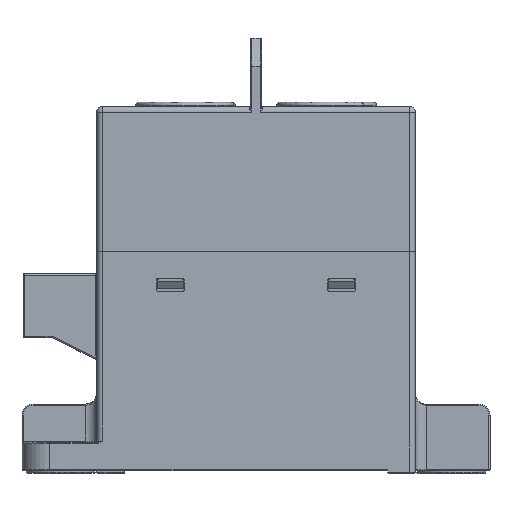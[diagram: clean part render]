
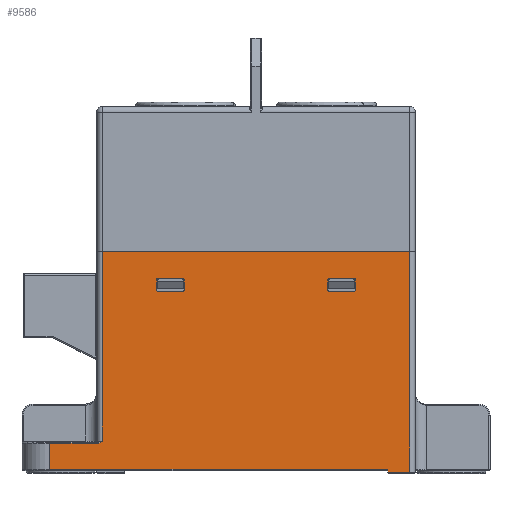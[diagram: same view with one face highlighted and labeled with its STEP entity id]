
A CAD part, top view. The second image highlights one B-rep face of the part: STEP entity #9586.
In plain terms, the highlighted planar face has unit normal (0, 0, 1).
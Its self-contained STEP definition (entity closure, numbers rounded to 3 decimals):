
#262=DIRECTION('',(0.,-1.,0.));
#263=VECTOR('',#262,39.8);
#264=CARTESIAN_POINT('',(-22.95,40.,-0.2));
#265=LINE('',#264,#263);
#270=DIRECTION('',(0.,-1.,0.));
#271=VECTOR('',#270,0.5);
#272=CARTESIAN_POINT('',(-26.95,0.7,-0.2));
#273=LINE('',#272,#271);
#274=CARTESIAN_POINT('',(-78.45,5.8,-0.2));
#275=CARTESIAN_POINT('',(-78.528,5.742,-0.2));
#276=CARTESIAN_POINT('',(-78.682,5.638,
-0.2));
#277=CARTESIAN_POINT('',(-78.906,5.505,
-0.2));
#278=CARTESIAN_POINT('',(-79.131,5.42,
-0.2));
#279=CARTESIAN_POINT('',(-79.274,5.401,
-0.2));
#280=CARTESIAN_POINT('',(-79.344,5.4,
-0.2));
#282=DIRECTION('',(-1.,0.,0.));
#283=VECTOR('',#282,55.5);
#284=CARTESIAN_POINT('',(-22.95,40.,-0.2));
#285=LINE('',#284,#283);
#286=DIRECTION('',(-1.,0.,0.));
#287=VECTOR('',#286,4.4);
#288=CARTESIAN_POINT('',(-33.05,32.8,-0.2));
#289=LINE('',#288,#287);
#290=CARTESIAN_POINT('',(-33.05,33.1,-0.2));
#291=DIRECTION('',(0.,0.,-1.));
#292=DIRECTION('',(1.,0.,0.));
#293=AXIS2_PLACEMENT_3D('',#290,#291,#292);
#295=DIRECTION('',(0.,-1.,0.));
#296=VECTOR('',#295,1.8);
#297=CARTESIAN_POINT('',(-32.75,34.9,-0.2));
#298=LINE('',#297,#296);
#299=CARTESIAN_POINT('',(-33.05,34.9,-0.2));
#300=DIRECTION('',(0.,0.,-1.));
#301=DIRECTION('',(0.,1.,0.));
#302=AXIS2_PLACEMENT_3D('',#299,#300,#301);
#304=DIRECTION('',(1.,0.,0.));
#305=VECTOR('',#304,4.4);
#306=CARTESIAN_POINT('',(-37.45,35.2,-0.2));
#307=LINE('',#306,#305);
#308=CARTESIAN_POINT('',(-37.45,34.9,-0.2));
#309=DIRECTION('',(0.,0.,-1.));
#310=DIRECTION('',(-1.,0.,0.));
#311=AXIS2_PLACEMENT_3D('',#308,#309,#310);
#313=DIRECTION('',(0.,1.,0.));
#314=VECTOR('',#313,1.8);
#315=CARTESIAN_POINT('',(-37.75,33.1,-0.2));
#316=LINE('',#315,#314);
#317=CARTESIAN_POINT('',(-37.45,33.1,-0.2));
#318=DIRECTION('',(0.,0.,-1.));
#319=DIRECTION('',(0.,-1.,0.));
#320=AXIS2_PLACEMENT_3D('',#317,#318,#319);
#322=DIRECTION('',(-1.,0.,0.));
#323=VECTOR('',#322,4.4);
#324=CARTESIAN_POINT('',(-63.95,32.8,-0.2));
#325=LINE('',#324,#323);
#326=CARTESIAN_POINT('',(-63.95,33.1,-0.2));
#327=DIRECTION('',(0.,0.,-1.));
#328=DIRECTION('',(1.,0.,0.));
#329=AXIS2_PLACEMENT_3D('',#326,#327,#328);
#331=DIRECTION('',(0.,-1.,0.));
#332=VECTOR('',#331,1.8);
#333=CARTESIAN_POINT('',(-63.65,34.9,-0.2));
#334=LINE('',#333,#332);
#335=CARTESIAN_POINT('',(-63.95,34.9,-0.2));
#336=DIRECTION('',(0.,0.,-1.));
#337=DIRECTION('',(0.,1.,0.));
#338=AXIS2_PLACEMENT_3D('',#335,#336,#337);
#340=DIRECTION('',(1.,0.,0.));
#341=VECTOR('',#340,4.4);
#342=CARTESIAN_POINT('',(-68.35,35.2,-0.2));
#343=LINE('',#342,#341);
#344=CARTESIAN_POINT('',(-68.35,34.9,-0.2));
#345=DIRECTION('',(0.,0.,-1.));
#346=DIRECTION('',(-1.,0.,0.));
#347=AXIS2_PLACEMENT_3D('',#344,#345,#346);
#349=DIRECTION('',(0.,1.,0.));
#350=VECTOR('',#349,1.8);
#351=CARTESIAN_POINT('',(-68.65,33.1,-0.2));
#352=LINE('',#351,#350);
#353=CARTESIAN_POINT('',(-68.35,33.1,-0.2));
#354=DIRECTION('',(0.,0.,-1.));
#355=DIRECTION('',(0.,-1.,0.));
#356=AXIS2_PLACEMENT_3D('',#353,#354,#355);
#5691=DIRECTION('',(0.,1.,0.));
#5692=VECTOR('',#5691,34.2);
#5693=CARTESIAN_POINT('',(-78.45,5.8,-0.2));
#5694=LINE('',#5693,#5692);
#5914=DIRECTION('',(0.,1.,0.));
#5915=VECTOR('',#5914,4.7);
#5916=CARTESIAN_POINT('',(-87.95,0.7,-0.2));
#5917=LINE('',#5916,#5915);
#5941=DIRECTION('',(-1.,0.,0.));
#5942=VECTOR('',#5941,61.);
#5943=CARTESIAN_POINT('',(-26.95,0.7,-0.2));
#5944=LINE('',#5943,#5942);
#6040=DIRECTION('',(1.,0.,0.));
#6041=VECTOR('',#6040,8.606);
#6042=CARTESIAN_POINT('',(-87.95,5.4,-0.2));
#6043=LINE('',#6042,#6041);
#7097=CARTESIAN_POINT('',(-26.95,0.2,-0.2));
#7105=DIRECTION('',(-1.,0.,0.));
#7106=VECTOR('',#7105,4.);
#7107=CARTESIAN_POINT('',(-22.95,0.2,-0.2));
#7108=LINE('',#7107,#7106);
#7240=CARTESIAN_POINT('',(-87.95,0.7,-0.2));
#7242=VERTEX_POINT('',#7240);
#7243=VERTEX_POINT('',#7097);
#7289=CARTESIAN_POINT('',(-68.65,34.9,-0.2));
#7290=CARTESIAN_POINT('',(-68.35,35.2,-0.2));
#7291=VERTEX_POINT('',#7289);
#7292=VERTEX_POINT('',#7290);
#7602=CARTESIAN_POINT('',(-37.45,35.2,-0.2));
#7603=CARTESIAN_POINT('',(-33.05,35.2,-0.2));
#7604=VERTEX_POINT('',#7602);
#7605=VERTEX_POINT('',#7603);
#7649=CARTESIAN_POINT('',(-37.75,33.1,-0.2));
#7650=CARTESIAN_POINT('',(-37.75,34.9,-0.2));
#7651=VERTEX_POINT('',#7649);
#7652=VERTEX_POINT('',#7650);
#7764=CARTESIAN_POINT('',(-63.95,35.2,-0.2));
#7765=VERTEX_POINT('',#7764);
#7899=CARTESIAN_POINT('',(-22.95,0.2,-0.2));
#7900=VERTEX_POINT('',#7899);
#7903=CARTESIAN_POINT('',(-26.95,0.7,-0.2));
#7905=VERTEX_POINT('',#7903);
#7913=CARTESIAN_POINT('',(-78.45,5.8,-0.2));
#7914=VERTEX_POINT('',#7913);
#8023=CARTESIAN_POINT('',(-22.95,40.,-0.2));
#8024=VERTEX_POINT('',#8023);
#8073=CARTESIAN_POINT('',(-63.65,33.1,-0.2));
#8074=CARTESIAN_POINT('',(-63.95,32.8,-0.2));
#8075=VERTEX_POINT('',#8073);
#8076=VERTEX_POINT('',#8074);
#8097=CARTESIAN_POINT('',(-78.45,40.,-0.2));
#8098=VERTEX_POINT('',#8097);
#8115=CARTESIAN_POINT('',(-87.95,5.4,-0.2));
#8116=VERTEX_POINT('',#8115);
#8165=CARTESIAN_POINT('',(-33.05,32.8,-0.2));
#8166=CARTESIAN_POINT('',(-37.45,32.8,-0.2));
#8167=VERTEX_POINT('',#8165);
#8168=VERTEX_POINT('',#8166);
#8195=CARTESIAN_POINT('',(-68.35,32.8,-0.2));
#8196=VERTEX_POINT('',#8195);
#8224=CARTESIAN_POINT('',(-79.344,5.4,-0.2));
#8225=VERTEX_POINT('',#8224);
#8272=CARTESIAN_POINT('',(-68.65,33.1,-0.2));
#8273=VERTEX_POINT('',#8272);
#8278=CARTESIAN_POINT('',(-63.65,34.9,-0.2));
#8279=VERTEX_POINT('',#8278);
#8280=CARTESIAN_POINT('',(-32.75,33.1,-0.2));
#8281=VERTEX_POINT('',#8280);
#8285=CARTESIAN_POINT('',(-32.75,34.9,-0.2));
#8286=VERTEX_POINT('',#8285);
#9526=CARTESIAN_POINT('',(-21.95,40.,-0.2));
#9527=DIRECTION('',(0.,0.,-1.));
#9528=DIRECTION('',(-1.,0.,0.));
#9529=AXIS2_PLACEMENT_3D('',#9526,#9527,#9528);
#9530=PLANE('',#9529);
#9532=ORIENTED_EDGE('',*,*,#9531,.F.);
#9534=ORIENTED_EDGE('',*,*,#9533,.T.);
#9536=ORIENTED_EDGE('',*,*,#9535,.T.);
#9538=ORIENTED_EDGE('',*,*,#9537,.T.);
#9540=ORIENTED_EDGE('',*,*,#9539,.F.);
#9542=ORIENTED_EDGE('',*,*,#9541,.T.);
#9544=ORIENTED_EDGE('',*,*,#9543,.F.);
#9545=ORIENTED_EDGE('',*,*,#9516,.T.);
#9547=ORIENTED_EDGE('',*,*,#9546,.T.);
#9548=EDGE_LOOP('',(#9532,#9534,#9536,#9538,#9540,#9542,#9544,#9545,#9547));
#9549=FACE_OUTER_BOUND('',#9548,.F.);
#9551=ORIENTED_EDGE('',*,*,#9550,.F.);
#9553=ORIENTED_EDGE('',*,*,#9552,.F.);
#9555=ORIENTED_EDGE('',*,*,#9554,.F.);
#9557=ORIENTED_EDGE('',*,*,#9556,.F.);
#9559=ORIENTED_EDGE('',*,*,#9558,.F.);
#9561=ORIENTED_EDGE('',*,*,#9560,.F.);
#9563=ORIENTED_EDGE('',*,*,#9562,.F.);
#9565=ORIENTED_EDGE('',*,*,#9564,.F.);
#9566=EDGE_LOOP('',(#9551,#9553,#9555,#9557,#9559,#9561,#9563,#9565));
#9567=FACE_BOUND('',#9566,.F.);
#9569=ORIENTED_EDGE('',*,*,#9568,.F.);
#9571=ORIENTED_EDGE('',*,*,#9570,.F.);
#9573=ORIENTED_EDGE('',*,*,#9572,.F.);
#9575=ORIENTED_EDGE('',*,*,#9574,.F.);
#9577=ORIENTED_EDGE('',*,*,#9576,.F.);
#9579=ORIENTED_EDGE('',*,*,#9578,.F.);
#9581=ORIENTED_EDGE('',*,*,#9580,.F.);
#9583=ORIENTED_EDGE('',*,*,#9582,.F.);
#9584=EDGE_LOOP('',(#9569,#9571,#9573,#9575,#9577,#9579,#9581,#9583));
#9585=FACE_BOUND('',#9584,.F.);
#9586=ADVANCED_FACE('',(#9549,#9567,#9585),#9530,.F.);
#281=B_SPLINE_CURVE_WITH_KNOTS('',3,(#274,#275,#276,#277,#278,#279,#280),
.UNSPECIFIED.,.F.,.F.,(4,1,1,1,4),(0.,0.25,0.5,0.75,1.),
.UNSPECIFIED.);
#294=CIRCLE('',#293,0.3);
#303=CIRCLE('',#302,0.3);
#312=CIRCLE('',#311,0.3);
#321=CIRCLE('',#320,0.3);
#330=CIRCLE('',#329,0.3);
#339=CIRCLE('',#338,0.3);
#348=CIRCLE('',#347,0.3);
#357=CIRCLE('',#356,0.3);
#9516=EDGE_CURVE('',#8024,#7900,#265,.T.);
#9531=EDGE_CURVE('',#7905,#7243,#273,.T.);
#9533=EDGE_CURVE('',#7905,#7242,#5944,.T.);
#9535=EDGE_CURVE('',#7242,#8116,#5917,.T.);
#9537=EDGE_CURVE('',#8116,#8225,#6043,.T.);
#9539=EDGE_CURVE('',#7914,#8225,#281,.T.);
#9541=EDGE_CURVE('',#7914,#8098,#5694,.T.);
#9543=EDGE_CURVE('',#8024,#8098,#285,.T.);
#9546=EDGE_CURVE('',#7900,#7243,#7108,.T.);
#9550=EDGE_CURVE('',#8167,#8168,#289,.T.);
#9552=EDGE_CURVE('',#8281,#8167,#294,.T.);
#9554=EDGE_CURVE('',#8286,#8281,#298,.T.);
#9556=EDGE_CURVE('',#7605,#8286,#303,.T.);
#9558=EDGE_CURVE('',#7604,#7605,#307,.T.);
#9560=EDGE_CURVE('',#7652,#7604,#312,.T.);
#9562=EDGE_CURVE('',#7651,#7652,#316,.T.);
#9564=EDGE_CURVE('',#8168,#7651,#321,.T.);
#9568=EDGE_CURVE('',#8076,#8196,#325,.T.);
#9570=EDGE_CURVE('',#8075,#8076,#330,.T.);
#9572=EDGE_CURVE('',#8279,#8075,#334,.T.);
#9574=EDGE_CURVE('',#7765,#8279,#339,.T.);
#9576=EDGE_CURVE('',#7292,#7765,#343,.T.);
#9578=EDGE_CURVE('',#7291,#7292,#348,.T.);
#9580=EDGE_CURVE('',#8273,#7291,#352,.T.);
#9582=EDGE_CURVE('',#8196,#8273,#357,.T.);
